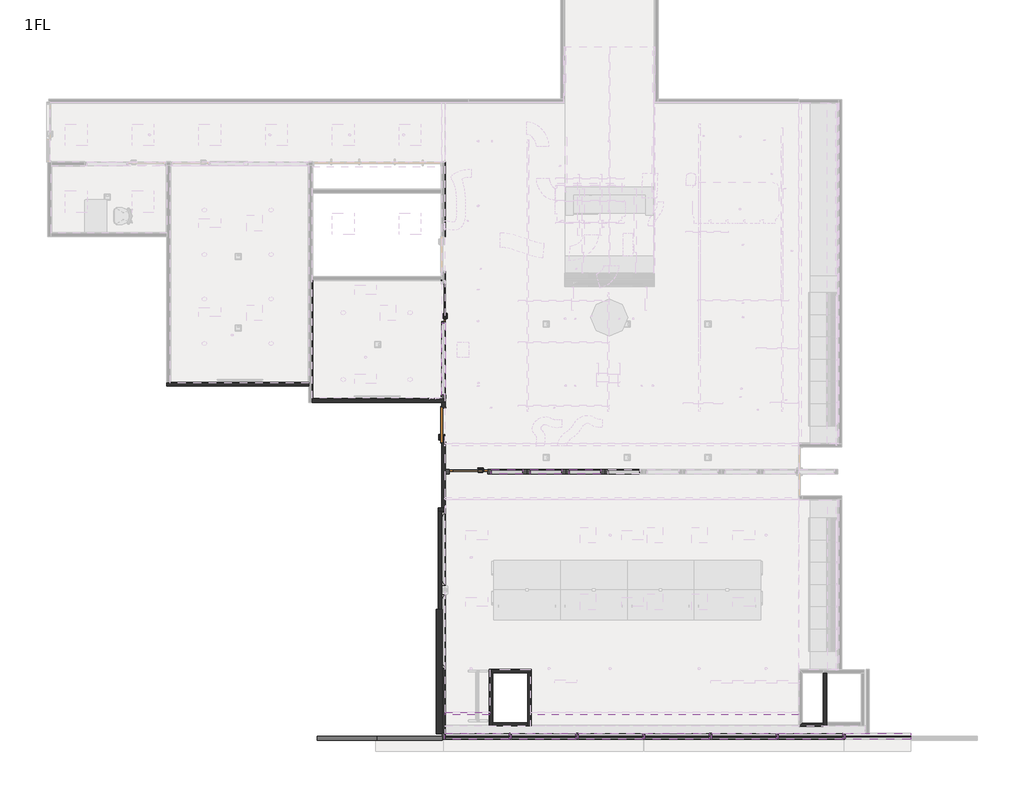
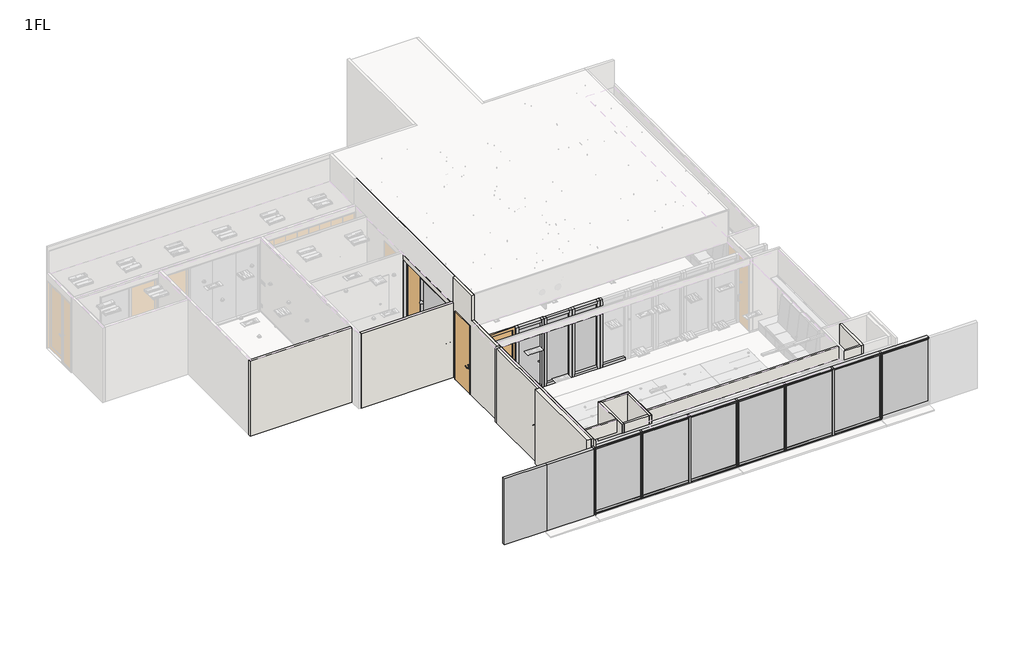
# One storey, part 1 of 13: 39 members, 23 walls, 13 plates, 3 doors.
"""IFC4 building model written with IfcOpenShell, lengths in millimetres."""

from ifc_helpers import new_model, si_unit, frame, origin, place, context, project, spatial, polyline, outline, extrude, faceted_brep, transform, mapped, element, save
from components import steel_single_door_gpd_1_0d1a616a, steel_single_door_gpd_2_abf82ac7, wood_single_door_sd_1_950x2700_91983d8e, down_e4a2a12c, top_d1448e6b, top_173eb091, frame_100x1003_5722a33e, frame_100x1003_1326d172, frame_100x1003_340101ea, frame_50x100_6de2b0af, frame_50x100_53001aca, frame_60x160_ca974d75, plate_15741f28, plate_787ad437, interior_panel_glass_e7516142, interior_panel_glass_336ad03b, interior_panel_glass_7099a990, interior_panel_glass_2195ac98

model = new_model("IFC4")

# Units and contexts
model_context = context("Model", 3, world=origin())
ifc_project = project(units=[si_unit("LENGTHUNIT", "METRE", prefix="MILLI")], contexts=[model_context])

# Site, building, storey
site = spatial("IfcSite", under=ifc_project)
building = spatial("IfcBuilding", under=site)
storey = spatial("IfcBuildingStorey", under=building, Name="1FL", Elevation=500.0)

# Doors
placement = place(None, origin())
steel_single_door_gpd_1_shape = steel_single_door_gpd_1_0d1a616a(model_context)
element("IfcDoor", 1, ObjectType="Steel-Single-Door : GPD-1", at=placement, inside=storey, context=model_context, shape_type="MappedRepresentation", body=[
    mapped(steel_single_door_gpd_1_shape, transform((11548.5692788, -326.3735279, 500.0), x_axis=(0.0, -1.0, 0.0), y_axis=(1.0, 0.0, 0.0), z_axis=(0.0, 0.0, 1.0))),
])
steel_single_door_gpd_2_shape = steel_single_door_gpd_2_abf82ac7(model_context)
element("IfcDoor", 2, ObjectType="Steel-Single-Door : GPD-2", at=placement, inside=storey, context=model_context, shape_type="MappedRepresentation", body=[
    mapped(steel_single_door_gpd_2_shape, transform((12218.5892788, -4881.2937075, 500.0), x_axis=(1.0, 0.0, 0.0), y_axis=(0.0, 1.0, 0.0), z_axis=(0.0, 0.0, 1.0))),
])
wood_single_door_sd_1_950x2700_shape = wood_single_door_sd_1_950x2700_91983d8e(model_context)
element("IfcDoor", 3, ObjectType="Wood_Single-Door : SD-1_950x2700", at=placement, inside=storey, context=model_context, shape_type="MappedRepresentation", body=[
    mapped(wood_single_door_sd_1_950x2700_shape, transform((11543.0692788, -3619.7997031, 500.0), x_axis=(0.0, -1.0, 0.0), y_axis=(1.0, 0.0, 0.0), z_axis=(0.0, 0.0, 1.0))),
])

# Members
down_shape = down_e4a2a12c(model_context)
element("IfcMember", 4, ObjectType="長方形マリオン : Down", at=placement, inside=storey, context=model_context, shape_type="MappedRepresentation", body=[
    mapped(down_shape, transform((20512.8361758, -12076.8108554, 540.0), x_axis=(0.0, 0.0, -1.0), y_axis=(0.0, 1.0, 0.0), z_axis=(1.0, 0.0, 0.0))),
])
element("IfcMember", 5, ObjectType="長方形マリオン : Down", at=placement, inside=storey, context=model_context, shape_type="MappedRepresentation", body=[
    mapped(down_shape, transform((18712.8361758, -12076.8108554, 540.0), x_axis=(0.0, 0.0, -1.0), y_axis=(0.0, 1.0, 0.0), z_axis=(1.0, 0.0, 0.0))),
])
element("IfcMember", 6, ObjectType="長方形マリオン : Down", at=placement, inside=storey, context=model_context, shape_type="MappedRepresentation", body=[
    mapped(down_shape, transform((16912.8361758, -12076.8108554, 540.0), x_axis=(0.0, 0.0, -1.0), y_axis=(0.0, 1.0, 0.0), z_axis=(1.0, 0.0, 0.0))),
])
element("IfcMember", 7, ObjectType="長方形マリオン : Down", at=placement, inside=storey, context=model_context, shape_type="MappedRepresentation", body=[
    mapped(down_shape, transform((15112.8361758, -12076.8108554, 540.0), x_axis=(0.0, 0.0, -1.0), y_axis=(0.0, 1.0, 0.0), z_axis=(1.0, 0.0, 0.0))),
])
element("IfcMember", 8, ObjectType="長方形マリオン : Down", at=placement, inside=storey, context=model_context, shape_type="MappedRepresentation", body=[
    mapped(down_shape, transform((13312.8361758, -12076.8108554, 540.0), x_axis=(0.0, 0.0, -1.0), y_axis=(0.0, 1.0, 0.0), z_axis=(1.0, 0.0, 0.0))),
])
element("IfcMember", 9, ObjectType="長方形マリオン : Down", at=placement, inside=storey, context=model_context, shape_type="MappedRepresentation", body=[
    mapped(down_shape, transform((22312.8361758, -12076.8108554, 540.0), x_axis=(0.0, 0.0, -1.0), y_axis=(0.0, 1.0, 0.0), z_axis=(1.0, 0.0, 0.0))),
])
top_shape = top_d1448e6b(model_context)
element("IfcMember", 10, ObjectType="長方形マリオン : Top", at=placement, inside=storey, context=model_context, shape_type="MappedRepresentation", body=[
    mapped(top_shape, transform((22373.3023813, -12076.8108554, 3173.0), x_axis=(0.0, 0.0, 1.0), y_axis=(0.0, 1.0, 0.0), z_axis=(-1.0, 0.0, 0.0))),
])
top_2_shape = top_173eb091(model_context)
element("IfcMember", 11, ObjectType="長方形マリオン : Top", at=placement, inside=storey, context=model_context, shape_type="MappedRepresentation", body=[
    mapped(top_2_shape, transform((20573.3023813, -12076.8108554, 3173.0), x_axis=(0.0, 0.0, 1.0), y_axis=(0.0, 1.0, 0.0), z_axis=(-1.0, 0.0, 0.0))),
])
element("IfcMember", 12, ObjectType="長方形マリオン : Top", at=placement, inside=storey, context=model_context, shape_type="MappedRepresentation", body=[
    mapped(top_2_shape, transform((18773.3023813, -12076.8108554, 3173.0), x_axis=(0.0, 0.0, 1.0), y_axis=(0.0, 1.0, 0.0), z_axis=(-1.0, 0.0, 0.0))),
])
element("IfcMember", 13, ObjectType="長方形マリオン : Top", at=placement, inside=storey, context=model_context, shape_type="MappedRepresentation", body=[
    mapped(top_2_shape, transform((16973.3023813, -12076.8108554, 3173.0), x_axis=(0.0, 0.0, 1.0), y_axis=(0.0, 1.0, 0.0), z_axis=(-1.0, 0.0, 0.0))),
])
element("IfcMember", 14, ObjectType="長方形マリオン : Top", at=placement, inside=storey, context=model_context, shape_type="MappedRepresentation", body=[
    mapped(top_2_shape, transform((15173.3023813, -12076.8108554, 3173.0), x_axis=(0.0, 0.0, 1.0), y_axis=(0.0, 1.0, 0.0), z_axis=(-1.0, 0.0, 0.0))),
])
element("IfcMember", 15, ObjectType="長方形マリオン : Top", at=placement, inside=storey, context=model_context, shape_type="MappedRepresentation", body=[
    mapped(top_2_shape, transform((13373.3023813, -12076.8108554, 3173.0), x_axis=(0.0, 0.0, 1.0), y_axis=(0.0, 1.0, 0.0), z_axis=(-1.0, 0.0, 0.0))),
])
element("IfcMember", 16, ObjectType="長方形マリオン : Top", at=placement, inside=storey, context=model_context, shape_type="MappedRepresentation", body=[
    mapped(top_2_shape, transform((11573.3023813, -12076.8108554, 3173.0), x_axis=(0.0, 0.0, 1.0), y_axis=(0.0, 1.0, 0.0), z_axis=(-1.0, 0.0, 0.0))),
])
frame_100x1003_shape = frame_100x1003_5722a33e(model_context)
element("IfcMember", 17, ObjectType="長方形マリオン : frame-100x1003", at=placement, inside=storey, context=model_context, shape_type="MappedRepresentation", body=[
    mapped(frame_100x1003_shape, transform((13738.5892788, -4881.2937075, 500.0), x_axis=(1.0, 0.0, 0.0), y_axis=(0.0, -1.0, 0.0), z_axis=(0.0, 0.0, -1.0))),
])
element("IfcMember", 18, ObjectType="長方形マリオン : frame-100x1003", at=placement, inside=storey, context=model_context, shape_type="MappedRepresentation", body=[
    mapped(frame_100x1003_shape, transform((14788.5892788, -4881.2937075, 500.0), x_axis=(1.0, 0.0, 0.0), y_axis=(0.0, -1.0, 0.0), z_axis=(0.0, 0.0, -1.0))),
])
element("IfcMember", 19, ObjectType="長方形マリオン : frame-100x1003", at=placement, inside=storey, context=model_context, shape_type="MappedRepresentation", body=[
    mapped(frame_100x1003_shape, transform((15838.5892788, -4881.2937075, 500.0), x_axis=(1.0, 0.0, 0.0), y_axis=(0.0, -1.0, 0.0), z_axis=(0.0, 0.0, -1.0))),
])
element("IfcMember", 20, ObjectType="長方形マリオン : frame-100x1003", at=placement, inside=storey, context=model_context, shape_type="MappedRepresentation", body=[
    mapped(frame_100x1003_shape, transform((12788.5892788, -4881.2937075, 500.0), x_axis=(1.0, 0.0, 0.0), y_axis=(0.0, -1.0, 0.0), z_axis=(0.0, 0.0, -1.0))),
])
element("IfcMember", 21, ObjectType="長方形マリオン : frame-100x1003", at=placement, inside=storey, context=model_context, shape_type="MappedRepresentation", body=[
    mapped(frame_100x1003_shape, transform((13838.5892788, -4881.2937075, 500.0), x_axis=(1.0, 0.0, 0.0), y_axis=(0.0, -1.0, 0.0), z_axis=(0.0, 0.0, -1.0))),
])
element("IfcMember", 22, ObjectType="長方形マリオン : frame-100x1003", at=placement, inside=storey, context=model_context, shape_type="MappedRepresentation", body=[
    mapped(frame_100x1003_shape, transform((14888.5892788, -4881.2937075, 500.0), x_axis=(1.0, 0.0, 0.0), y_axis=(0.0, -1.0, 0.0), z_axis=(0.0, 0.0, -1.0))),
])
element("IfcMember", 23, ObjectType="長方形マリオン : frame-100x1003", at=placement, inside=storey, context=model_context, shape_type="MappedRepresentation", body=[
    mapped(frame_100x1003_shape, transform((15938.5892788, -4881.2937075, 500.0), x_axis=(1.0, 0.0, 0.0), y_axis=(0.0, -1.0, 0.0), z_axis=(0.0, 0.0, -1.0))),
])
frame_100x1003_2_shape = frame_100x1003_1326d172(model_context)
element("IfcMember", 24, ObjectType="長方形マリオン : frame-100x1003", at=placement, inside=storey, context=model_context, shape_type="MappedRepresentation", body=[
    mapped(frame_100x1003_2_shape, transform((13688.5892788, -4881.2937075, 3200.0), x_axis=(0.0, 0.0, 1.0), y_axis=(0.0, -1.0, 0.0), z_axis=(1.0, 0.0, 0.0))),
])
element("IfcMember", 25, ObjectType="長方形マリオン : frame-100x1003", at=placement, inside=storey, context=model_context, shape_type="MappedRepresentation", body=[
    mapped(frame_100x1003_2_shape, transform((14738.5892788, -4881.2937075, 3200.0), x_axis=(0.0, 0.0, 1.0), y_axis=(0.0, -1.0, 0.0), z_axis=(1.0, 0.0, 0.0))),
])
element("IfcMember", 26, ObjectType="長方形マリオン : frame-100x1003", at=placement, inside=storey, context=model_context, shape_type="MappedRepresentation", body=[
    mapped(frame_100x1003_2_shape, transform((15788.5892788, -4881.2937075, 3200.0), x_axis=(0.0, 0.0, 1.0), y_axis=(0.0, -1.0, 0.0), z_axis=(1.0, 0.0, 0.0))),
])
element("IfcMember", 27, ObjectType="長方形マリオン : frame-100x1003", at=placement, inside=storey, context=model_context, shape_type="MappedRepresentation", body=[
    mapped(frame_100x1003_2_shape, transform((12838.5892788, -4881.2937075, 500.0), x_axis=(0.0, 0.0, -1.0), y_axis=(0.0, -1.0, 0.0), z_axis=(-1.0, 0.0, 0.0))),
])
element("IfcMember", 28, ObjectType="長方形マリオン : frame-100x1003", at=placement, inside=storey, context=model_context, shape_type="MappedRepresentation", body=[
    mapped(frame_100x1003_2_shape, transform((13888.5892788, -4881.2937075, 500.0), x_axis=(0.0, 0.0, -1.0), y_axis=(0.0, -1.0, 0.0), z_axis=(-1.0, 0.0, 0.0))),
])
element("IfcMember", 29, ObjectType="長方形マリオン : frame-100x1003", at=placement, inside=storey, context=model_context, shape_type="MappedRepresentation", body=[
    mapped(frame_100x1003_2_shape, transform((14938.5892788, -4881.2937075, 500.0), x_axis=(0.0, 0.0, -1.0), y_axis=(0.0, -1.0, 0.0), z_axis=(-1.0, 0.0, 0.0))),
])
element("IfcMember", 30, ObjectType="長方形マリオン : frame-100x1003", at=placement, inside=storey, context=model_context, shape_type="MappedRepresentation", body=[
    mapped(frame_100x1003_2_shape, transform((15988.5892788, -4881.2937075, 500.0), x_axis=(0.0, 0.0, -1.0), y_axis=(0.0, -1.0, 0.0), z_axis=(-1.0, 0.0, 0.0))),
])
frame_100x1003_3_shape = frame_100x1003_340101ea(model_context)
element("IfcMember", 31, ObjectType="長方形マリオン : frame-100x1003", at=placement, inside=storey, context=model_context, shape_type="MappedRepresentation", body=[
    mapped(frame_100x1003_3_shape, transform((11548.5692788, -2909.2797031, 500.0), x_axis=(0.0, -1.0, 0.0), y_axis=(-1.0, 0.0, 0.0), z_axis=(0.0, 0.0, -1.0))),
])
element("IfcMember", 32, ObjectType="長方形マリオン : frame-100x1003", at=placement, inside=storey, context=model_context, shape_type="MappedRepresentation", body=[
    mapped(frame_100x1003_3_shape, transform((11598.5892788, -4881.2937075, 3200.0), x_axis=(-1.0, 0.0, 0.0), y_axis=(0.0, -1.0, 0.0), z_axis=(0.0, 0.0, 1.0))),
])
frame_50x100_shape = frame_50x100_6de2b0af(model_context)
element("IfcMember", 33, ObjectType="長方形マリオン : frame-50x100", at=placement, inside=storey, context=model_context, shape_type="MappedRepresentation", body=[
    mapped(frame_50x100_shape, transform((11548.5692788, -876.3735279, 500.0), x_axis=(0.0, 0.0, -1.0), y_axis=(-1.0, 0.0, 0.0), z_axis=(0.0, 1.0, 0.0))),
])
element("IfcMember", 34, ObjectType="長方形マリオン : frame-50x100", at=placement, inside=storey, context=model_context, shape_type="MappedRepresentation", body=[
    mapped(frame_50x100_shape, transform((11548.5692788, -2809.2797031, 3200.0), x_axis=(0.0, 0.0, 1.0), y_axis=(-1.0, 0.0, 0.0), z_axis=(0.0, -1.0, 0.0))),
])
frame_50x100_2_shape = frame_50x100_53001aca(model_context)
element("IfcMember", 35, ObjectType="長方形マリオン : frame-50x100", at=placement, inside=storey, context=model_context, shape_type="MappedRepresentation", body=[
    mapped(frame_50x100_2_shape, transform((11548.5692788, -851.3735279, 500.0), x_axis=(0.0, -1.0, 0.0), y_axis=(-1.0, 0.0, 0.0), z_axis=(0.0, 0.0, -1.0))),
])
frame_60x160_shape = frame_60x160_ca974d75(model_context)
element("IfcMember", 36, ObjectType="長方形マリオン : frame-60x160", at=placement, inside=storey, context=model_context, shape_type="MappedRepresentation", body=[
    mapped(frame_60x160_shape, transform((20543.0692785, -12076.8108554, 540.0), x_axis=(-1.0, 0.0, 0.0), y_axis=(0.0, 1.0, 0.0), z_axis=(0.0, 0.0, -1.0))),
])
element("IfcMember", 37, ObjectType="長方形マリオン : frame-60x160", at=placement, inside=storey, context=model_context, shape_type="MappedRepresentation", body=[
    mapped(frame_60x160_shape, transform((18743.0692785, -12076.8108554, 540.0), x_axis=(-1.0, 0.0, 0.0), y_axis=(0.0, 1.0, 0.0), z_axis=(0.0, 0.0, -1.0))),
])
element("IfcMember", 38, ObjectType="長方形マリオン : frame-60x160", at=placement, inside=storey, context=model_context, shape_type="MappedRepresentation", body=[
    mapped(frame_60x160_shape, transform((16943.0692785, -12076.8108554, 540.0), x_axis=(-1.0, 0.0, 0.0), y_axis=(0.0, 1.0, 0.0), z_axis=(0.0, 0.0, -1.0))),
])
element("IfcMember", 39, ObjectType="長方形マリオン : frame-60x160", at=placement, inside=storey, context=model_context, shape_type="MappedRepresentation", body=[
    mapped(frame_60x160_shape, transform((15143.0692785, -12076.8108554, 540.0), x_axis=(-1.0, 0.0, 0.0), y_axis=(0.0, 1.0, 0.0), z_axis=(0.0, 0.0, -1.0))),
])
element("IfcMember", 40, ObjectType="長方形マリオン : frame-60x160", at=placement, inside=storey, context=model_context, shape_type="MappedRepresentation", body=[
    mapped(frame_60x160_shape, transform((13343.0692785, -12076.8108554, 540.0), x_axis=(-1.0, 0.0, 0.0), y_axis=(0.0, 1.0, 0.0), z_axis=(0.0, 0.0, -1.0))),
])
element("IfcMember", 41, ObjectType="長方形マリオン : frame-60x160", at=placement, inside=storey, context=model_context, shape_type="MappedRepresentation", body=[
    mapped(frame_60x160_shape, transform((11543.0692785, -12076.8108554, 540.0), x_axis=(-1.0, 0.0, 0.0), y_axis=(0.0, 1.0, 0.0), z_axis=(0.0, 0.0, -1.0))),
])
element("IfcMember", 42, ObjectType="長方形マリオン : frame-60x160", at=placement, inside=storey, context=model_context, shape_type="MappedRepresentation", body=[
    mapped(frame_60x160_shape, transform((22343.0692785, -12076.8108554, 540.0), x_axis=(-1.0, 0.0, 0.0), y_axis=(0.0, 1.0, 0.0), z_axis=(0.0, 0.0, -1.0))),
])

# Plates
plate_shape = plate_15741f28(model_context)
element("IfcPlate", 43, ObjectType="システム パネルなし : なし", at=placement, inside=storey, context=model_context, shape_type="MappedRepresentation", body=[
    mapped(plate_shape, transform((8943.0692787, -12076.8108554, 540.0), x_axis=(-1.0, 0.0, 0.0), y_axis=(0.0, -1.0, 0.0), z_axis=(0.0, 0.0, 1.0))),
])
plate_2_shape = plate_787ad437(model_context)
element("IfcPlate", 44, ObjectType="システム パネルなし : なし", at=placement, inside=storey, context=model_context, shape_type="MappedRepresentation", body=[
    mapped(plate_2_shape, transform((10628.0693127, -12076.8108554, 540.0), x_axis=(-1.0, 0.0, 0.0), y_axis=(0.0, -1.0, 0.0), z_axis=(0.0, 0.0, 1.0))),
])
interior_panel_glass_shape = interior_panel_glass_e7516142(model_context)
element("IfcPlate", 45, ObjectType="Interior-Panel : Glass", at=placement, inside=storey, context=model_context, shape_type="MappedRepresentation", body=[
    mapped(interior_panel_glass_shape, transform((13263.5892788, -4881.2937075, 600.0), x_axis=(1.0, 0.0, 0.0), y_axis=(0.0, 1.0, 0.0), z_axis=(0.0, 0.0, 1.0))),
])
element("IfcPlate", 46, ObjectType="Interior-Panel : Glass", at=placement, inside=storey, context=model_context, shape_type="MappedRepresentation", body=[
    mapped(interior_panel_glass_shape, transform((14313.5892788, -4881.2937075, 600.0), x_axis=(1.0, 0.0, 0.0), y_axis=(0.0, 1.0, 0.0), z_axis=(0.0, 0.0, 1.0))),
])
element("IfcPlate", 47, ObjectType="Interior-Panel : Glass", at=placement, inside=storey, context=model_context, shape_type="MappedRepresentation", body=[
    mapped(interior_panel_glass_shape, transform((15363.5892788, -4881.2937075, 600.0), x_axis=(1.0, 0.0, 0.0), y_axis=(0.0, 1.0, 0.0), z_axis=(0.0, 0.0, 1.0))),
])
interior_panel_glass_2_shape = interior_panel_glass_336ad03b(model_context)
element("IfcPlate", 48, ObjectType="Interior-Panel : Glass", at=placement, inside=storey, context=model_context, shape_type="MappedRepresentation", body=[
    mapped(interior_panel_glass_2_shape, transform((11548.5692788, -1842.8266155, 550.0), x_axis=(0.0, -1.0, 0.0), y_axis=(1.0, 0.0, 0.0), z_axis=(0.0, 0.0, 1.0))),
])
interior_panel_glass_3_shape = interior_panel_glass_7099a990(model_context)
element("IfcPlate", 49, ObjectType="Interior-Panel : Glass", at=placement, inside=storey, context=model_context, shape_type="MappedRepresentation", body=[
    mapped(interior_panel_glass_3_shape, transform((19643.0692745, -12076.8108554, 543.5), x_axis=(-1.0, 0.0, 0.0), y_axis=(0.0, -1.0, 0.0), z_axis=(0.0, 0.0, 1.0))),
])
element("IfcPlate", 50, ObjectType="Interior-Panel : Glass", at=placement, inside=storey, context=model_context, shape_type="MappedRepresentation", body=[
    mapped(interior_panel_glass_3_shape, transform((17843.0692745, -12076.8108554, 543.5), x_axis=(-1.0, 0.0, 0.0), y_axis=(0.0, -1.0, 0.0), z_axis=(0.0, 0.0, 1.0))),
])
element("IfcPlate", 51, ObjectType="Interior-Panel : Glass", at=placement, inside=storey, context=model_context, shape_type="MappedRepresentation", body=[
    mapped(interior_panel_glass_3_shape, transform((16043.0692745, -12076.8108554, 543.5), x_axis=(-1.0, 0.0, 0.0), y_axis=(0.0, -1.0, 0.0), z_axis=(0.0, 0.0, 1.0))),
])
element("IfcPlate", 52, ObjectType="Interior-Panel : Glass", at=placement, inside=storey, context=model_context, shape_type="MappedRepresentation", body=[
    mapped(interior_panel_glass_3_shape, transform((14243.0692745, -12076.8108554, 543.5), x_axis=(-1.0, 0.0, 0.0), y_axis=(0.0, -1.0, 0.0), z_axis=(0.0, 0.0, 1.0))),
])
element("IfcPlate", 53, ObjectType="Interior-Panel : Glass", at=placement, inside=storey, context=model_context, shape_type="MappedRepresentation", body=[
    mapped(interior_panel_glass_3_shape, transform((12443.0692745, -12076.8108554, 543.5), x_axis=(-1.0, 0.0, 0.0), y_axis=(0.0, -1.0, 0.0), z_axis=(0.0, 0.0, 1.0))),
])
element("IfcPlate", 54, ObjectType="Interior-Panel : Glass", at=placement, inside=storey, context=model_context, shape_type="MappedRepresentation", body=[
    mapped(interior_panel_glass_3_shape, transform((21443.0692745, -12076.8108554, 543.5), x_axis=(-1.0, 0.0, 0.0), y_axis=(0.0, -1.0, 0.0), z_axis=(0.0, 0.0, 1.0))),
])
interior_panel_glass_4_shape = interior_panel_glass_2195ac98(model_context)
element("IfcPlate", 55, ObjectType="Interior-Panel : Glass", at=placement, inside=storey, context=model_context, shape_type="MappedRepresentation", body=[
    mapped(interior_panel_glass_4_shape, transform((23258.0692403, -12076.8108554, 543.5), x_axis=(-1.0, 0.0, 0.0), y_axis=(0.0, -1.0, 0.0), z_axis=(0.0, 0.0, 1.0))),
])

# Walls
element("IfcWall", 56, ObjectType="CF-5", at=placement, inside=storey, context=model_context, shape_type="SweptSolid", body=[
    extrude(outline(polyline([(12793.0692791, -11437.8358493), (11589.0692788, -11437.8358493), (11589.0692788, -11370.8358493), (12793.0692791, -11370.8358493), (12793.0692791, -11437.8358493)])), frame((0.0, 0.0, 2971.0013148), z_axis=(0.0, 0.0, 1.0), x_axis=(1.0, 0.0, 0.0)), (0.0, 0.0, 1.0), 493.9986852),
])
element("IfcWall", 57, ObjectType="CF-5", at=placement, inside=storey, context=model_context, shape_type="SweptSolid", body=[
    extrude(outline(polyline([(21127.5692788, -11437.8358493), (13893.0692788, -11437.8358493), (13893.0692788, -11370.8358493), (21127.5692788, -11370.8358493), (21127.5692788, -11437.8358493)])), frame((0.0, 0.0, 2971.0013148), z_axis=(0.0, 0.0, 1.0), x_axis=(1.0, 0.0, 0.0)), (0.0, 0.0, 1.0), 480.9986852),
])
element("IfcWall", 58, ObjectType="W-1", at=placement, inside=storey, context=model_context, shape_type="Brep", body=[
    faceted_brep([(4083.8903689, -2576.9426633, 500.0), (7917.5680096, -2576.9426633, 500.0), (7917.5680096, -2576.9426633, 3465.0), (4083.8903689, -2576.9426633, 3465.0), (4083.8903689, -2484.9426633, 500.0), (4083.8903689, -2484.9426633, 3465.0), (4175.8903689, -2484.9426633, 3465.0), (7917.5680096, -2484.9426633, 3465.0), (7917.5680096, -2484.9426633, 500.0), (4175.8903689, -2484.9426633, 500.0)], [[[0, 1, 2, 3]], [[4, 5, 6, 7, 8, 9]], [[1, 0, 4, 9, 8]], [[3, 2, 7, 6, 5]], [[2, 1, 8, 7]], [[0, 3, 5, 4]]]),
])
element("IfcWall", 59, ObjectType="W-1", at=placement, inside=storey, context=model_context, shape_type="Brep", body=[
    faceted_brep([(8009.5680096, -3010.7797031, 500.0), (11497.0692788, -3010.7797031, 500.0), (11589.0692788, -3010.7797031, 500.0), (11589.0692788, -3010.7797031, 3465.0), (11497.0692788, -3010.7797031, 3465.0), (8009.5680096, -3010.7797031, 3465.0), (8009.5680096, -2918.7797031, 500.0), (8009.5680096, -2918.7797031, 3465.0), (11497.0692788, -2918.7797031, 3465.0), (11589.0692788, -2918.7797031, 3465.0), (11589.0692788, -2918.7797031, 500.0), (11497.0692788, -2918.7797031, 500.0), (11487.5692788, -2918.7797031, 500.0), (11589.0692788, -2964.7797031, 3465.0)], [[[0, 1, 2, 3, 4, 5]], [[6, 7, 8, 9, 10, 11, 12]], [[2, 1, 0, 6, 12, 11, 10]], [[5, 4, 3, 13, 9, 8, 7]], [[3, 2, 10, 9, 13]], [[0, 5, 7, 6]]]),
])
element("IfcWall", 60, ObjectType="W-1", at=placement, inside=storey, context=model_context, shape_type="Brep", body=[
    faceted_brep([(11497.0692788, -4187.3077133, 4470.0), (11497.0692788, -2964.7797031, 4470.0), (11497.0692788, -2964.7797031, 3465.0), (11497.0692788, -3010.7797031, 3465.0), (11497.0692788, -3010.7797031, 500.0), (11497.0692788, -3134.7997031, 500.0), (11497.0692788, -3134.7997031, 3205.0), (11497.0692788, -4104.7997031, 3205.0), (11497.0692788, -4104.7997031, 500.0), (11497.0692788, -5862.9920976, 500.0), (11497.0692788, -5862.9920976, 3465.0), (11497.0692788, -4187.3077133, 3465.0), (11589.0692788, -5954.9920976, 3465.0), (11589.0692788, -5954.9920976, 500.0), (11589.0692788, -4089.7997031, 500.0), (11589.0692788, -4089.7997031, 3190.0), (11589.0692788, -3149.7997031, 3190.0), (11589.0692788, -3149.7997031, 500.0), (11589.0692788, -3010.7797031, 500.0), (11589.0692788, -3010.7797031, 3465.0), (11589.0692788, -2964.7797031, 3465.0), (11589.0692788, -2964.7797031, 4470.0), (11589.0692788, -4120.3077133, 4470.0), (11589.0692788, -4187.3077133, 4470.0), (11589.0692788, -4187.3077133, 3465.0), (11589.0692788, -5575.2797018, 3465.0), (11589.0692788, -5642.2797018, 3465.0), (11527.0692788, -3134.7997031, 3205.0), (11527.0692788, -4104.7997031, 3205.0), (11527.0692788, -3134.7997031, 500.0), (11527.0692788, -3149.7997031, 500.0), (11527.0692788, -3149.7997031, 3190.0), (11527.0692788, -4089.7997031, 3190.0), (11527.0692788, -4089.7997031, 500.0), (11527.0692788, -4104.7997031, 500.0), (11576.7031842, -5862.9920976, 500.0), (11576.7031842, -5862.9920976, 3465.0), (11576.7031842, -5954.9920976, 500.0), (11576.7031842, -5954.9920976, 3465.0)], [[[0, 1, 2, 3, 4, 5, 6, 7, 8, 9, 10, 11]], [[12, 13, 14, 15, 16, 17, 18, 19, 20, 21, 22, 23, 24, 25, 26]], [[27, 28, 7, 6]], [[29, 27, 6, 5]], [[28, 27, 29, 30, 31, 32, 33, 34]], [[28, 34, 8, 7]], [[32, 31, 16, 15]], [[31, 30, 17, 16]], [[33, 32, 15, 14]], [[4, 3, 19, 18]], [[35, 36, 10, 9]], [[36, 35, 37, 38]], [[5, 4, 18, 17, 30, 29]], [[14, 13, 37, 35, 9, 8, 34, 33]], [[13, 12, 38, 37]], [[1, 0, 23, 22, 21]], [[2, 1, 21, 20]], [[2, 20, 19, 3]], [[12, 26, 25, 24, 11, 10, 36, 38]], [[0, 11, 24, 23]]]),
])
element("IfcWall", 61, ObjectType="W-1", at=placement, inside=storey, context=model_context, shape_type="Brep", body=[
    faceted_brep([(21790.0692872, -10322.3078391, 500.0), (21790.0692872, -11741.3073642, 500.0), (21790.0692872, -11741.3073642, 3457.0), (21790.0692872, -10322.3078391, 3457.0), (21882.0692872, -10322.3078391, 500.0), (21882.0692872, -10322.3078391, 3457.0), (21882.0692872, -11649.3073642, 3457.0), (21882.0692872, -11741.3073642, 3457.0), (21882.0692872, -11741.3073642, 500.0), (21882.0692872, -11649.3073642, 500.0)], [[[0, 1, 2, 3]], [[4, 5, 6, 7, 8, 9]], [[1, 0, 4, 9, 8]], [[3, 2, 7, 6, 5]], [[0, 3, 5, 4]], [[2, 1, 8, 7]]]),
])
element("IfcWall", 62, ObjectType="W-1", at=placement, inside=storey, context=model_context, shape_type="Brep", body=[
    faceted_brep([(11408.1143037, -5954.9920976, 500.0), (11500.1143037, -5954.9920976, 500.0), (11576.7031842, -5954.9920976, 500.0), (11576.7031842, -5954.9920976, 3465.0), (11500.1143037, -5954.9920976, 3465.0), (11408.1143037, -5954.9920976, 3465.0), (11408.1143037, -5862.9920976, 500.0), (11408.1143037, -5862.9920976, 3465.0), (11497.0692788, -5862.9920976, 3465.0), (11576.7031842, -5862.9920976, 3465.0), (11576.7031842, -5862.9920976, 500.0), (11497.0692788, -5862.9920976, 500.0)], [[[0, 1, 2, 3, 4, 5]], [[6, 7, 8, 9, 10, 11]], [[2, 1, 0, 6, 11, 10]], [[3, 2, 10, 9]], [[5, 4, 3, 9, 8, 7]], [[0, 5, 7, 6]]]),
])
element("IfcWall", 63, ObjectType="W-1", at=placement, inside=storey, context=model_context, shape_type="SweptSolid", body=[
    extrude(outline(polyline([(11408.1143037, -8594.406018), (11408.1143037, -5954.9920976), (11500.1143037, -5954.9920976), (11500.1143037, -8594.406018), (11408.1143037, -8594.406018)])), frame((0.0, 0.0, 500.0), z_axis=(0.0, 0.0, 1.0), x_axis=(1.0, 0.0, 0.0)), (0.0, 0.0, 1.0), 2965.0),
])
element("IfcWall", 64, ObjectType="W-2", at=placement, inside=storey, context=model_context, shape_type="Brep", body=[
    faceted_brep([(11509.5680096, -11953.3067556, 500.0), (11509.5680096, -8594.406018, 500.0), (11509.5680096, -8594.406018, 3465.0), (11509.5680096, -11953.3067556, 3465.0), (11348.5680096, -11953.3067556, 500.0), (11348.5680096, -11953.3067556, 3465.0), (11348.5680096, -8594.406018, 3465.0), (11348.5680096, -8594.406018, 500.0), (11408.1143037, -8594.406018, 500.0), (11500.1143037, -8594.406018, 500.0), (11408.1143037, -8594.406018, 3465.0), (11500.1143037, -8594.406018, 3465.0)], [[[0, 1, 2, 3]], [[4, 5, 6, 7]], [[1, 0, 4, 7, 8, 9]], [[2, 1, 9, 8, 7, 6, 10, 11]], [[3, 2, 11, 10, 6, 5]], [[0, 3, 5, 4]]]),
])
element("IfcWall", 65, ObjectType="W-3", at=placement, inside=storey, context=model_context, shape_type="Brep", body=[
    faceted_brep([(11589.0692788, -11953.3067556, 500.0), (11589.0692788, -5954.9920976, 500.0), (11589.0692788, -5954.9920976, 3465.0), (11589.0692788, -11370.8358493, 3465.0), (11589.0692788, -11437.8358493, 3465.0), (11589.0692788, -11953.3067556, 3465.0), (11589.0692788, -10186.8078391, 2750.0), (11589.0692788, -5964.8078391, 2750.0), (11589.0692788, -5964.8078391, 1550.0), (11589.0692788, -10186.8078391, 1550.0), (11509.5692788, -5954.9920976, 500.0), (11509.5692788, -8594.406018, 500.0), (11509.5692788, -11953.3067556, 500.0), (11509.5692788, -11953.3067556, 3465.0), (11509.5692788, -8594.406018, 3465.0), (11509.5692788, -5954.9920976, 3465.0), (11509.5692788, -5964.8078391, 2750.0), (11509.5692788, -10186.8078391, 2750.0), (11509.5692788, -10186.8078391, 1550.0), (11509.5692788, -5964.8078391, 1550.0), (11576.7031842, -5954.9920976, 500.0), (11576.7031842, -5954.9920976, 3465.0)], [[[0, 1, 2, 3, 4, 5], [6, 7, 8, 9]], [[10, 11, 12, 13, 14, 15], [16, 17, 18, 19]], [[1, 0, 12, 11, 10, 20]], [[2, 1, 20, 10, 15, 21]], [[5, 4, 3, 2, 21, 15, 14, 13]], [[0, 5, 13, 12]], [[6, 17, 16, 7]], [[8, 19, 18, 9]], [[17, 6, 9, 18]], [[7, 16, 19, 8]]]),
])
element("IfcWall", 66, ObjectType="W-3", at=placement, inside=storey, context=model_context, shape_type="SweptSolid", body=[
    extrude(outline(polyline([(21216.5692788, -11671.3073642), (21780.5692791, -11671.3073642), (21780.5692791, -11750.8073642), (21137.0692788, -11750.8073642), (21216.5692788, -11671.3073642)])), frame((0.0, 0.0, 500.0), z_axis=(0.0, 0.0, 1.0), x_axis=(1.0, 0.0, 0.0)), (0.0, 0.0, 1.0), 2957.0),
])
element("IfcWall", 67, ObjectType="W-3", at=placement, inside=storey, context=model_context, shape_type="Brep", body=[
    faceted_brep([(12793.0692791, -10233.3078391, 500.0), (12793.0692791, -11738.3078178, 500.0), (12793.0692791, -11738.3078178, 3457.0), (12793.0692791, -10233.3078391, 3457.0), (12872.5692791, -10312.8078391, 500.0), (12872.5692791, -10312.8078391, 3457.0), (12872.5692791, -11658.8078178, 3457.0), (12872.5692791, -11738.3078178, 3457.0), (12872.5692791, -11738.3078178, 500.0), (12872.5692791, -11658.8078178, 500.0)], [[[0, 1, 2, 3]], [[4, 5, 6, 7, 8, 9]], [[1, 0, 4, 9, 8]], [[3, 2, 7, 6, 5]], [[0, 3, 5, 4]], [[2, 1, 8, 7]]]),
])
element("IfcWall", 68, ObjectType="W-3", at=placement, inside=storey, context=model_context, shape_type="Brep", body=[
    faceted_brep([(12872.5692791, -10312.8078391, 500.0), (13813.5692788, -10312.8078391, 500.0), (13893.0692788, -10312.8078391, 500.0), (13893.0692788, -10312.8078391, 3457.0), (13813.5692788, -10312.8078391, 3457.0), (12872.5692791, -10312.8078391, 3457.0), (12793.0692791, -10233.3078391, 500.0), (12793.0692791, -10233.3078391, 3457.0), (13893.0692788, -10233.3078391, 3457.0), (13893.0692788, -10233.3078391, 500.0)], [[[0, 1, 2, 3, 4, 5]], [[6, 7, 8, 9]], [[2, 1, 0, 6, 9]], [[5, 4, 3, 8, 7]], [[0, 5, 7, 6]], [[3, 2, 9, 8]]]),
])
element("IfcWall", 69, ObjectType="W-3", at=placement, inside=storey, context=model_context, shape_type="Brep", body=[
    faceted_brep([(13813.5692788, -10312.8078391, 500.0), (13813.5692788, -11658.8078178, 500.0), (13813.5692788, -11738.3078178, 500.0), (13813.5692788, -11738.3078178, 3457.0), (13813.5692788, -11658.8078178, 3457.0), (13813.5692788, -10312.8078391, 3457.0), (13893.0692788, -10312.8078391, 500.0), (13893.0692788, -10312.8078391, 3457.0), (13893.0692788, -11738.3078178, 3457.0), (13893.0692788, -11738.3078178, 500.0)], [[[0, 1, 2, 3, 4, 5]], [[6, 7, 8, 9]], [[2, 1, 0, 6, 9]], [[5, 4, 3, 8, 7]], [[0, 5, 7, 6]], [[3, 2, 9, 8]]]),
])
element("IfcWall", 70, ObjectType="W-3", at=placement, inside=storey, context=model_context, shape_type="SweptSolid", body=[
    extrude(outline(polyline([(12872.5692791, -11658.8078178), (13813.5692788, -11658.8078178), (13813.5692788, -11738.3078178), (12872.5692791, -11738.3078178), (12872.5692791, -11658.8078178)])), frame((0.0, 0.0, 500.0), z_axis=(0.0, 0.0, 1.0), x_axis=(1.0, 0.0, 0.0)), (0.0, 0.0, 1.0), 2957.0),
])
element("IfcWall", 71, ObjectType="WF-1", at=placement, inside=storey, context=model_context, shape_type="Brep", body=[
    faceted_brep([(11598.5692788, 3468.6845805, 4470.0), (11598.5692788, -4120.3077133, 4470.0), (11598.5692788, -4120.3077133, 3465.0), (11598.5692788, -12101.1224971, 3465.0), (11598.5692788, -12101.1224971, 500.0), (11598.5692788, -4089.7997031, 500.0), (11598.5692788, -4089.7997031, 3190.0), (11598.5692788, -3149.7997031, 3190.0), (11598.5692788, -3149.7997031, 500.0), (11598.5692788, -2909.2797031, 500.0), (11598.5692788, -2909.2797031, 3200.0), (11598.5692788, 273.6264721, 3200.0), (11598.5692788, 273.6264721, 500.0), (11598.5692788, 514.6264721, 500.0), (11598.5692788, 514.6264721, 3190.0), (11598.5692788, 1454.6264721, 3190.0), (11598.5692788, 1454.6264721, 500.0), (11598.5692788, 3463.9345805, 500.0), (11598.5692788, 3463.9345805, 3465.0), (11598.5692788, 3468.6845805, 3465.0), (11598.5692788, -5964.8078391, 2750.0), (11598.5692788, -5964.8078391, 1550.0), (11598.5692788, -10186.8078391, 1550.0), (11598.5692788, -10186.8078391, 2750.0), (11589.0692788, -4120.3077133, 4470.0), (11589.0692788, -2964.7797031, 4470.0), (11589.0692788, 3463.9345805, 4470.0), (11589.0692788, 3468.6845805, 4470.0), (11589.0692788, 3468.6845805, 3465.0), (11589.0692788, 3463.9345805, 3465.0), (11589.0692788, 3463.9345805, 500.0), (11589.0692788, 1454.6264721, 500.0), (11589.0692788, 1454.6264721, 3190.0), (11589.0692788, 514.6264721, 3190.0), (11589.0692788, 514.6264721, 500.0), (11589.0692788, 273.6264721, 500.0), (11589.0692788, 273.6264721, 3200.0), (11589.0692788, -2909.2797031, 3200.0), (11589.0692788, -2909.2797031, 500.0), (11589.0692788, -2918.7797031, 500.0), (11589.0692788, -3010.7797031, 500.0), (11589.0692788, -3149.7997031, 500.0), (11589.0692788, -3149.7997031, 3190.0), (11589.0692788, -4089.7997031, 3190.0), (11589.0692788, -4089.7997031, 500.0), (11589.0692788, -5954.9920976, 500.0), (11589.0692788, -11953.3067556, 500.0), (11589.0692788, -12101.1224971, 500.0), (11589.0692788, -12101.1224971, 3465.0), (11589.0692788, -11953.3067556, 3465.0), (11589.0692788, -5954.9920976, 3465.0), (11589.0692788, -4187.3077133, 3465.0), (11589.0692788, -4120.3077133, 3465.0), (11589.0692788, -5964.8078391, 1550.0), (11589.0692788, -5964.8078391, 2750.0), (11589.0692788, -10186.8078391, 2750.0), (11589.0692788, -10186.8078391, 1550.0)], [[[0, 1, 2, 3, 4, 5, 6, 7, 8, 9, 10, 11, 12, 13, 14, 15, 16, 17, 18, 19], [20, 21, 22, 23]], [[24, 25, 26, 27, 28, 29, 30, 31, 32, 33, 34, 35, 36, 37, 38, 39, 40, 41, 42, 43, 44, 45, 46, 47, 48, 49, 50, 51, 52], [53, 54, 55, 56]], [[32, 15, 14, 33]], [[33, 14, 13, 34]], [[15, 32, 31, 16]], [[11, 36, 35, 12]], [[36, 11, 10, 37]], [[37, 10, 9, 38]], [[42, 7, 6, 43]], [[7, 42, 41, 8]], [[43, 6, 5, 44]], [[18, 17, 30, 29]], [[17, 16, 31, 30]], [[13, 12, 35, 34]], [[4, 47, 46, 45, 44, 5]], [[38, 9, 8, 41, 40, 39]], [[1, 0, 27, 26, 25, 24]], [[4, 3, 48, 47]], [[28, 27, 0, 19]], [[28, 19, 18, 29]], [[20, 23, 55, 54]], [[21, 20, 54, 53]], [[22, 21, 53, 56]], [[23, 22, 56, 55]], [[3, 2, 52, 51, 50, 49, 48]], [[2, 1, 24, 52]]]),
])
element("IfcWall", 72, ObjectType="WF-1_12.5", at=placement, inside=storey, context=model_context, shape_type="Brep", body=[
    faceted_brep([(12780.5692789, -10220.8078391, 500.0), (12780.5692789, -11738.3078178, 500.0), (12780.5692789, -11738.3078178, 3457.0), (12780.5692789, -10220.8078391, 3457.0), (12793.0692789, -10220.8078391, 500.0), (12793.0692789, -10220.8078391, 3457.0), (12793.0692789, -10233.3078391, 3457.0), (12793.0692789, -11738.3078178, 3457.0), (12793.0692789, -11738.3078178, 500.0), (12793.0692789, -10233.3078391, 500.0)], [[[0, 1, 2, 3]], [[4, 5, 6, 7, 8, 9]], [[1, 0, 4, 9, 8]], [[3, 2, 7, 6, 5]], [[2, 1, 8, 7]], [[0, 3, 5, 4]]]),
])
element("IfcWall", 73, ObjectType="WF-1_12.5", at=placement, inside=storey, context=model_context, shape_type="SweptSolid", body=[
    extrude(outline(polyline([(13893.0692789, -10233.3078391), (12793.0692789, -10233.3078391), (12793.0692789, -10220.8078391), (13893.0692789, -10220.8078391), (13893.0692789, -10233.3078391)])), frame((0.0, 0.0, 500.0), z_axis=(0.0, 0.0, 1.0), x_axis=(1.0, 0.0, 0.0)), (0.0, 0.0, 1.0), 2957.0),
])
element("IfcWall", 74, ObjectType="WF-1_12.5", at=placement, inside=storey, context=model_context, shape_type="Brep", body=[
    faceted_brep([(13893.0692789, -10220.8078391, 500.0), (13893.0692789, -10233.3078391, 500.0), (13893.0692789, -10312.8078391, 500.0), (13893.0692789, -11738.3078178, 500.0), (13893.0692789, -11738.3078178, 3457.0), (13893.0692789, -10312.8078391, 3457.0), (13893.0692789, -10233.3078391, 3457.0), (13893.0692789, -10220.8078391, 3457.0), (13905.5692789, -10220.8078391, 500.0), (13905.5692789, -10220.8078391, 3457.0), (13905.5692789, -11738.3078178, 3457.0), (13905.5692789, -11738.3078178, 500.0)], [[[0, 1, 2, 3, 4, 5, 6, 7]], [[8, 9, 10, 11]], [[3, 2, 1, 0, 8, 11]], [[7, 6, 5, 4, 10, 9]], [[4, 3, 11, 10]], [[0, 7, 9, 8]]]),
])
element("IfcWall", 75, ObjectType="WF-3", at=placement, inside=storey, context=model_context, shape_type="Brep", body=[
    faceted_brep([(11487.5692788, -2909.2797031, 500.0), (8019.0680096, -2909.2797031, 500.0), (8009.5680096, -2909.2797031, 500.0), (8009.5680096, -2909.2797031, 3400.0), (8019.0680096, -2909.2797031, 3400.0), (11487.5692788, -2909.2797031, 3400.0), (11487.5692788, -2909.2797031, 3200.0), (11487.5692788, -2918.7797031, 500.0), (11487.5692788, -2918.7797031, 3400.0), (8009.5680096, -2918.7797031, 3400.0), (8009.5680096, -2918.7797031, 500.0)], [[[0, 1, 2, 3, 4, 5, 6]], [[7, 8, 9, 10]], [[2, 1, 0, 7, 10]], [[5, 4, 3, 9, 8]], [[3, 2, 10, 9]], [[0, 6, 5, 8, 7]]]),
])
element("IfcWall", 76, ObjectType="WF-3", at=placement, inside=storey, context=model_context, shape_type="Brep", body=[
    faceted_brep([(11497.0692788, 283.1264721, 3400.0), (11497.0692788, -2918.7797031, 3400.0), (11497.0692788, -2918.7797031, 500.0), (11497.0692788, -2909.2797031, 500.0), (11497.0692788, -2909.2797031, 3200.0), (11497.0692788, 273.6264721, 3200.0), (11497.0692788, 273.6264721, 500.0), (11497.0692788, 283.1264721, 500.0), (11487.5692788, -2918.7797031, 3400.0), (11487.5692788, -2909.2797031, 3400.0), (11487.5692788, 283.1264721, 3400.0), (11487.5692788, 283.1264721, 500.0), (11487.5692788, 273.6264721, 500.0), (11487.5692788, 273.6264721, 3200.0), (11487.5692788, -2909.2797031, 3200.0), (11487.5692788, -2909.2797031, 500.0), (11487.5692788, -2918.7797031, 500.0)], [[[0, 1, 2, 3, 4, 5, 6, 7]], [[8, 9, 10, 11, 12, 13, 14, 15, 16]], [[11, 7, 6, 12]], [[2, 16, 15, 3]], [[1, 0, 10, 9, 8]], [[0, 7, 11, 10]], [[5, 13, 12, 6]], [[13, 5, 4, 14]], [[14, 4, 3, 15]], [[2, 1, 8, 16]]]),
])
element("IfcWall", 77, ObjectType="WF-3", at=placement, inside=storey, context=model_context, shape_type="Brep", body=[
    faceted_brep([(4185.4103689, -2484.9226633, 500.0), (7917.5680096, -2484.9226633, 500.0), (7917.5680096, -2484.9226633, 3400.0), (4185.4103689, -2484.9226633, 3400.0), (4185.4103689, -2475.4226633, 500.0), (4185.4103689, -2475.4226633, 3400.0), (7908.0680096, -2475.4226633, 3400.0), (7917.5680096, -2475.4226633, 3400.0), (7917.5680096, -2475.4226633, 500.0), (7908.0680096, -2475.4226633, 500.0)], [[[0, 1, 2, 3]], [[4, 5, 6, 7, 8, 9]], [[1, 0, 4, 9, 8]], [[3, 2, 7, 6, 5]], [[0, 3, 5, 4]], [[2, 1, 8, 7]]]),
])
element("IfcWall", 78, ObjectType="WF-8", at=placement, inside=storey, context=model_context, shape_type="SweptSolid", body=[
    extrude(outline(polyline([(8019.0680096, 273.6264721), (8019.0680096, -2909.2797031), (8009.5680096, -2909.2797031), (8009.5680096, 273.6264721), (8019.0680096, 273.6264721)])), frame((0.0, 0.0, 500.0), z_axis=(0.0, 0.0, 1.0), x_axis=(1.0, 0.0, 0.0)), (0.0, 0.0, 1.0), 2900.0),
])

save(model, "model.ifc")
